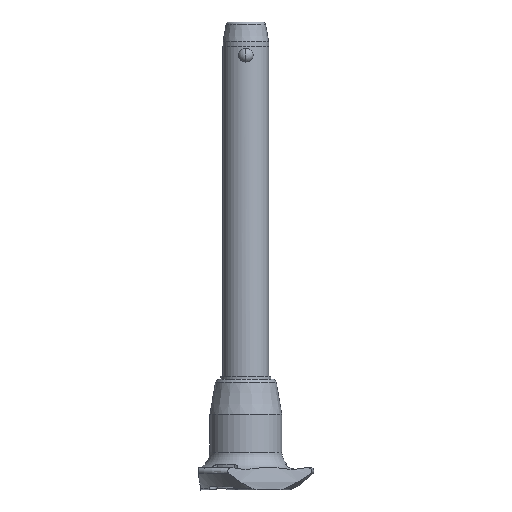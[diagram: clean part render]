
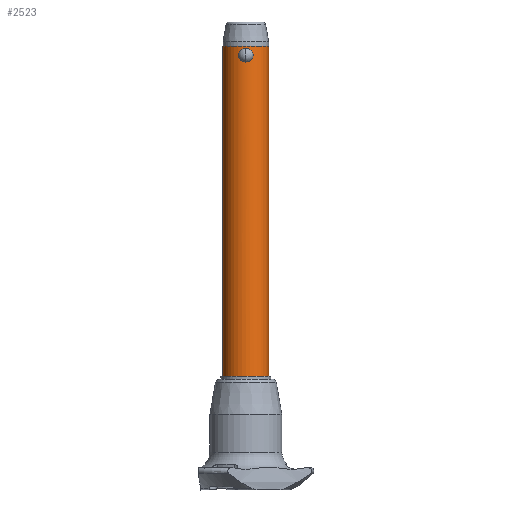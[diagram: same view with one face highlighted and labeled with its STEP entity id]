
A CAD part, front view. The second image highlights one B-rep face of the part: STEP entity #2523.
In plain terms, the highlighted cylindrical face has radius 8 mm (diameter 16 mm), a partial arc.
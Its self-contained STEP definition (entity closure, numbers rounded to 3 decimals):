
#31 = ORIENTED_EDGE ( 'NONE', *, *, #2316, .F. ) ;
#109 = EDGE_CURVE ( 'NONE', #2073, #1609, #2453, .T. ) ;
#111 = CARTESIAN_POINT ( 'NONE',  ( -2.459, -7.613, 3.036 ) ) ;
#126 = CARTESIAN_POINT ( 'NONE',  ( 2.461, -7.612, 3.027 ) ) ;
#136 = CYLINDRICAL_SURFACE ( 'NONE', #606, 8. ) ;
#142 = CARTESIAN_POINT ( 'NONE',  ( -1.527, -7.854, 4.313 ) ) ;
#155 = CARTESIAN_POINT ( 'NONE',  ( -2.276, -7.67, 3.482 ) ) ;
#170 = CARTESIAN_POINT ( 'NONE',  ( -1.658, -7.827, 4.216 ) ) ;
#181 = CARTESIAN_POINT ( 'NONE',  ( 1.66, -7.827, 4.215 ) ) ;
#183 = CARTESIAN_POINT ( 'NONE',  ( -0.324, -8., 0. ) ) ;
#239 = LINE ( 'NONE', #1619, #1144 ) ;
#296 = DIRECTION ( 'NONE',  ( 0., 0., 1. ) ) ;
#328 = DIRECTION ( 'NONE',  ( 1., 0., 0. ) ) ;
#346 = CARTESIAN_POINT ( 'NONE',  ( 2.546, -7.584, 2.22 ) ) ;
#388 = CARTESIAN_POINT ( 'NONE',  ( -1.254, -7.902, 0.297 ) ) ;
#418 = LINE ( 'NONE', #2680, #691 ) ;
#567 = DIRECTION ( 'NONE',  ( 0., 0., 1. ) ) ;
#606 = AXIS2_PLACEMENT_3D ( 'NONE', #1037, #2845, #2620 ) ;
#608 = CARTESIAN_POINT ( 'NONE',  ( -1.659, -7.827, 0.559 ) ) ;
#619 = CARTESIAN_POINT ( 'NONE',  ( -2.411, -7.628, 1.592 ) ) ;
#632 = EDGE_CURVE ( 'NONE', #973, #2080, #239, .T. ) ;
#653 = ORIENTED_EDGE ( 'NONE', *, *, #1884, .F. ) ;
#668 = CARTESIAN_POINT ( 'NONE',  ( 0., -8., 0. ) ) ;
#691 = VECTOR ( 'NONE', #2652, 1000. ) ;
#791 = CARTESIAN_POINT ( 'NONE',  ( 0., -8., 0. ) ) ;
#805 = CARTESIAN_POINT ( 'NONE',  ( 2.004, -7.746, 0.894 ) ) ;
#823 = CARTESIAN_POINT ( 'NONE',  ( -2.211, -7.69, 1.148 ) ) ;
#835 = CARTESIAN_POINT ( 'NONE',  ( -8., 0., 5.6 ) ) ;
#839 = CARTESIAN_POINT ( 'NONE',  ( 1.252, -7.903, 0.296 ) ) ;
#863 = CARTESIAN_POINT ( 'NONE',  ( 0., -8., 4.775 ) ) ;
#881 = CARTESIAN_POINT ( 'NONE',  ( 0., -8., 0. ) ) ;
#973 = VERTEX_POINT ( 'NONE', #2409 ) ;
#1027 = CARTESIAN_POINT ( 'NONE',  ( 2.275, -7.67, 1.291 ) ) ;
#1037 = CARTESIAN_POINT ( 'NONE',  ( 0., 0., -110. ) ) ;
#1044 = CARTESIAN_POINT ( 'NONE',  ( -2.546, -7.584, 2.553 ) ) ;
#1055 = CARTESIAN_POINT ( 'NONE',  ( -1.252, -7.903, 4.479 ) ) ;
#1144 = VECTOR ( 'NONE', #296, 1000. ) ;
#1165 = CARTESIAN_POINT ( 'NONE',  ( 0., -8., 4.775 ) ) ;
#1178 = EDGE_CURVE ( 'NONE', #1285, #2080, #1612, .T. ) ;
#1231 = CARTESIAN_POINT ( 'NONE',  ( -0.803, -7.961, 4.661 ) ) ;
#1243 = CARTESIAN_POINT ( 'NONE',  ( 2.547, -7.584, 2.549 ) ) ;
#1257 = FACE_BOUND ( 'NONE', #2389, .T. ) ;
#1267 = CARTESIAN_POINT ( 'NONE',  ( 0., -8., 4.775 ) ) ;
#1276 = CARTESIAN_POINT ( 'NONE',  ( 0.324, -8., 0. ) ) ;
#1285 = VERTEX_POINT ( 'NONE', #835 ) ;
#1288 = CARTESIAN_POINT ( 'NONE',  ( 0.652, -7.979, 0.058 ) ) ;
#1290 = CARTESIAN_POINT ( 'NONE',  ( -0.645, -7.976, 4.704 ) ) ;
#1402 = ORIENTED_EDGE ( 'NONE', *, *, #1178, .F. ) ;
#1461 = CARTESIAN_POINT ( 'NONE',  ( 2.46, -7.613, 1.742 ) ) ;
#1469 = FACE_OUTER_BOUND ( 'NONE', #2739, .T. ) ;
#1475 = CARTESIAN_POINT ( 'NONE',  ( 1.657, -7.827, 0.558 ) ) ;
#1500 = ORIENTED_EDGE ( 'NONE', *, *, #109, .F. ) ;
#1503 = CARTESIAN_POINT ( 'NONE',  ( 1.894, -7.773, 0.773 ) ) ;
#1506 = CARTESIAN_POINT ( 'NONE',  ( -1.53, -7.854, 0.464 ) ) ;
#1515 = CARTESIAN_POINT ( 'NONE',  ( 0.164, -8., 4.775 ) ) ;
#1547 = CARTESIAN_POINT ( 'NONE',  ( 1.108, -7.924, 4.548 ) ) ;
#1609 = VERTEX_POINT ( 'NONE', #668 ) ;
#1612 = CIRCLE ( 'NONE', #2864, 8. ) ;
#1619 = CARTESIAN_POINT ( 'NONE',  ( 8., 0., -110. ) ) ;
#1629 = B_SPLINE_CURVE_WITH_KNOTS ( 'NONE', 3,
 ( #791, #1276, #1288, #2185, #839, #1732, #1475, #1503, #805, #1685, #1027, #2595, #1461, #2368, #346, #1243, #2143, #126, #1698, #2834, #2850, #181, #1756, #2215, #1547, #2203, #1772, #2440, #1515, #863 ),
 .UNSPECIFIED., .F., .F.,
 ( 4, 2, 2, 2, 2, 2, 2, 2, 2, 2, 2, 2, 2, 2, 4 ),
 ( 0.008, 0.009, 0.009, 0.01, 0.01, 0.011, 0.011, 0.012, 0.012, 0.013, 0.014, 0.014, 0.015, 0.015, 0.016 ),
 .UNSPECIFIED. ) ;
#1655 = DIRECTION ( 'NONE',  ( 0., 0., -1. ) ) ;
#1673 = AXIS2_PLACEMENT_3D ( 'NONE', #2602, #1655, #2548 ) ;
#1685 = CARTESIAN_POINT ( 'NONE',  ( 2.194, -7.694, 1.153 ) ) ;
#1687 = CARTESIAN_POINT ( 'NONE',  ( -2.003, -7.746, 3.882 ) ) ;
#1698 = CARTESIAN_POINT ( 'NONE',  ( 2.41, -7.629, 3.184 ) ) ;
#1732 = CARTESIAN_POINT ( 'NONE',  ( 1.529, -7.854, 0.463 ) ) ;
#1756 = CARTESIAN_POINT ( 'NONE',  ( 1.529, -7.854, 4.312 ) ) ;
#1772 = CARTESIAN_POINT ( 'NONE',  ( 0.645, -7.976, 4.704 ) ) ;
#1854 = CARTESIAN_POINT ( 'NONE',  ( 8., 0., 5.6 ) ) ;
#1884 = EDGE_CURVE ( 'NONE', #973, #2500, #2192, .T. ) ;
#1890 = CARTESIAN_POINT ( 'NONE',  ( -1.896, -7.773, 4.001 ) ) ;
#1940 = CARTESIAN_POINT ( 'NONE',  ( -2.461, -7.612, 1.746 ) ) ;
#1953 = CARTESIAN_POINT ( 'NONE',  ( -0.164, -8., 4.775 ) ) ;
#1969 = CARTESIAN_POINT ( 'NONE',  ( -1.106, -7.925, 0.226 ) ) ;
#2073 = VERTEX_POINT ( 'NONE', #1165 ) ;
#2080 = VERTEX_POINT ( 'NONE', #1854 ) ;
#2109 = CARTESIAN_POINT ( 'NONE',  ( -8., 0., -110. ) ) ;
#2131 = CARTESIAN_POINT ( 'NONE',  ( -1.107, -7.924, 4.548 ) ) ;
#2143 = CARTESIAN_POINT ( 'NONE',  ( 2.529, -7.59, 2.71 ) ) ;
#2148 = CARTESIAN_POINT ( 'NONE',  ( -2.529, -7.59, 2.716 ) ) ;
#2165 = CARTESIAN_POINT ( 'NONE',  ( -0.326, -7.995, 4.761 ) ) ;
#2185 = CARTESIAN_POINT ( 'NONE',  ( 1.105, -7.925, 0.226 ) ) ;
#2192 = CIRCLE ( 'NONE', #1673, 8. ) ;
#2203 = CARTESIAN_POINT ( 'NONE',  ( 0.804, -7.961, 4.661 ) ) ;
#2215 = CARTESIAN_POINT ( 'NONE',  ( 1.253, -7.903, 4.478 ) ) ;
#2302 = EDGE_CURVE ( 'NONE', #1609, #2073, #1629, .T. ) ;
#2316 = EDGE_CURVE ( 'NONE', #2500, #1285, #418, .T. ) ;
#2356 = ORIENTED_EDGE ( 'NONE', *, *, #2302, .F. ) ;
#2368 = CARTESIAN_POINT ( 'NONE',  ( 2.528, -7.59, 2.058 ) ) ;
#2389 = EDGE_LOOP ( 'NONE', ( #1500, #2356 ) ) ;
#2409 = CARTESIAN_POINT ( 'NONE',  ( 8., 0., -110. ) ) ;
#2410 = CARTESIAN_POINT ( 'NONE',  ( -2.529, -7.59, 2.064 ) ) ;
#2440 = CARTESIAN_POINT ( 'NONE',  ( 0.326, -7.995, 4.761 ) ) ;
#2453 = B_SPLINE_CURVE_WITH_KNOTS ( 'NONE', 3,
 ( #1267, #1953, #2165, #1290, #1231, #2131, #1055, #142, #170, #1890, #1687, #2599, #155, #2867, #111, #2148, #1044, #2643, #2410, #1940, #619, #823, #2630, #608, #1506, #388, #1969, #2487, #183, #881 ),
 .UNSPECIFIED., .F., .F.,
 ( 4, 2, 2, 2, 2, 2, 2, 2, 2, 2, 2, 2, 2, 2, 4 ),
 ( 0., 0., 0.001, 0.001, 0.002, 0.002, 0.003, 0.003, 0.004, 0.004, 0.005, 0.006, 0.006, 0.007, 0.008 ),
 .UNSPECIFIED. ) ;
#2487 = CARTESIAN_POINT ( 'NONE',  ( -0.652, -7.979, 0.058 ) ) ;
#2500 = VERTEX_POINT ( 'NONE', #2109 ) ;
#2523 = ADVANCED_FACE ( 'NONE', ( #1469, #1257 ), #136, .T. ) ;
#2548 = DIRECTION ( 'NONE',  ( 1., 0., 0. ) ) ;
#2595 = CARTESIAN_POINT ( 'NONE',  ( 2.408, -7.629, 1.586 ) ) ;
#2599 = CARTESIAN_POINT ( 'NONE',  ( -2.193, -7.694, 3.623 ) ) ;
#2602 = CARTESIAN_POINT ( 'NONE',  ( 0., 0., -110. ) ) ;
#2620 = DIRECTION ( 'NONE',  ( 1., 0., 0. ) ) ;
#2624 = CARTESIAN_POINT ( 'NONE',  ( 0., 0., 5.6 ) ) ;
#2630 = CARTESIAN_POINT ( 'NONE',  ( -2.016, -7.746, 0.883 ) ) ;
#2643 = CARTESIAN_POINT ( 'NONE',  ( -2.547, -7.584, 2.229 ) ) ;
#2652 = DIRECTION ( 'NONE',  ( 0., 0., 1. ) ) ;
#2680 = CARTESIAN_POINT ( 'NONE',  ( -8., 0., -110. ) ) ;
#2704 = ORIENTED_EDGE ( 'NONE', *, *, #632, .T. ) ;
#2739 = EDGE_LOOP ( 'NONE', ( #31, #653, #2704, #1402 ) ) ;
#2834 = CARTESIAN_POINT ( 'NONE',  ( 2.211, -7.69, 3.626 ) ) ;
#2845 = DIRECTION ( 'NONE',  ( 0., 0., 1. ) ) ;
#2850 = CARTESIAN_POINT ( 'NONE',  ( 2.016, -7.746, 3.891 ) ) ;
#2864 = AXIS2_PLACEMENT_3D ( 'NONE', #2624, #567, #328 ) ;
#2867 = CARTESIAN_POINT ( 'NONE',  ( -2.408, -7.629, 3.189 ) ) ;
